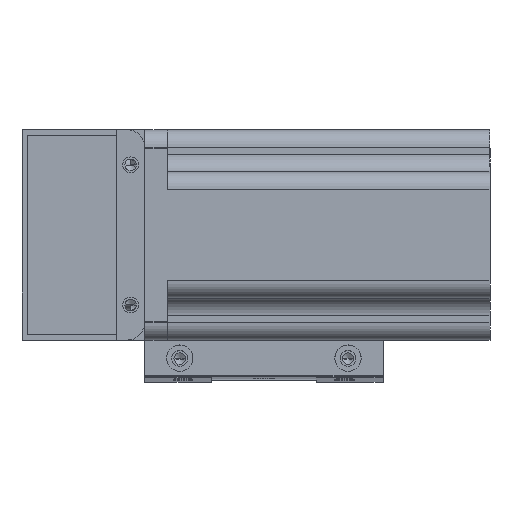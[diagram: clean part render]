
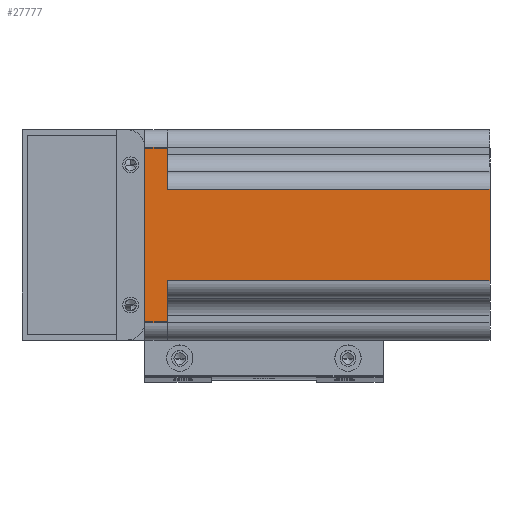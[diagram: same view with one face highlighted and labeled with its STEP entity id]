
A CAD part, top view. The second image highlights one B-rep face of the part: STEP entity #27777.
In plain terms, the highlighted planar face has unit normal (0, 0, 1) as drawn and (-1, 0, 0) by its records, which use the part's own axes.
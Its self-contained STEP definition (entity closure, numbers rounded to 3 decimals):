
#153 = DIRECTION ( 'NONE',  ( 0., -1., 0. ) ) ;
#791 = DIRECTION ( 'NONE',  ( 0., 1., 0. ) ) ;
#826 = CARTESIAN_POINT ( 'NONE',  ( -30., -25., 6.5 ) ) ;
#1353 = EDGE_LOOP ( 'NONE', ( #25726, #14454, #17214, #7334, #16757, #17132, #24239, #26567 ) ) ;
#1455 = CARTESIAN_POINT ( 'NONE',  ( -30., 13., -92. ) ) ;
#1907 = FACE_OUTER_BOUND ( 'NONE', #1353, .T. ) ;
#3016 = VERTEX_POINT ( 'NONE', #22235 ) ;
#3206 = VECTOR ( 'NONE', #791, 1000. ) ;
#3208 = EDGE_CURVE ( 'NONE', #23989, #17445, #11278, .T. ) ;
#3847 = CARTESIAN_POINT ( 'NONE',  ( -30., -25., 0. ) ) ;
#4029 = VECTOR ( 'NONE', #11522, 1000. ) ;
#4925 = PLANE ( 'NONE',  #6495 ) ;
#5169 = VERTEX_POINT ( 'NONE', #14510 ) ;
#5607 = LINE ( 'NONE', #22684, #3206 ) ;
#5768 = EDGE_CURVE ( 'NONE', #17445, #13157, #26271, .T. ) ;
#6495 = AXIS2_PLACEMENT_3D ( 'NONE', #13641, #19980, #22213 ) ;
#6500 = EDGE_CURVE ( 'NONE', #23989, #18814, #5607, .T. ) ;
#6698 = EDGE_CURVE ( 'NONE', #3016, #5169, #17689, .T. ) ;
#7268 = CARTESIAN_POINT ( 'NONE',  ( -30., -25., 6.5 ) ) ;
#7283 = VERTEX_POINT ( 'NONE', #12240 ) ;
#7332 = CARTESIAN_POINT ( 'NONE',  ( -30., -13., 0. ) ) ;
#7334 = ORIENTED_EDGE ( 'NONE', *, *, #7643, .F. ) ;
#7643 = EDGE_CURVE ( 'NONE', #25457, #13157, #12122, .T. ) ;
#8124 = CARTESIAN_POINT ( 'NONE',  ( -30., -25., 0. ) ) ;
#10000 = VECTOR ( 'NONE', #27383, 1000. ) ;
#11278 = LINE ( 'NONE', #11819, #4029 ) ;
#11522 = DIRECTION ( 'NONE',  ( 0., 0., 1. ) ) ;
#11819 = CARTESIAN_POINT ( 'NONE',  ( -30., -13., 6.5 ) ) ;
#12122 = LINE ( 'NONE', #25594, #18337 ) ;
#12240 = CARTESIAN_POINT ( 'NONE',  ( -30., 13., 0. ) ) ;
#12718 = DIRECTION ( 'NONE',  ( 0., -1., 0. ) ) ;
#13157 = VERTEX_POINT ( 'NONE', #8124 ) ;
#13641 = CARTESIAN_POINT ( 'NONE',  ( -30., -25., 6.5 ) ) ;
#13683 = EDGE_CURVE ( 'NONE', #7283, #18814, #27315, .T. ) ;
#14454 = ORIENTED_EDGE ( 'NONE', *, *, #3208, .T. ) ;
#14510 = CARTESIAN_POINT ( 'NONE',  ( -30., 25., 0. ) ) ;
#15119 = DIRECTION ( 'NONE',  ( 0., 0., -1. ) ) ;
#15138 = VECTOR ( 'NONE', #153, 1000. ) ;
#15325 = EDGE_CURVE ( 'NONE', #3016, #25457, #24843, .T. ) ;
#15326 = CARTESIAN_POINT ( 'NONE',  ( -30., -13., -92. ) ) ;
#16322 = EDGE_CURVE ( 'NONE', #5169, #7283, #26539, .T. ) ;
#16757 = ORIENTED_EDGE ( 'NONE', *, *, #15325, .F. ) ;
#16991 = DIRECTION ( 'NONE',  ( 0., 0., -1. ) ) ;
#17132 = ORIENTED_EDGE ( 'NONE', *, *, #6698, .T. ) ;
#17214 = ORIENTED_EDGE ( 'NONE', *, *, #5768, .T. ) ;
#17445 = VERTEX_POINT ( 'NONE', #7332 ) ;
#17689 = LINE ( 'NONE', #19289, #18726 ) ;
#18309 = VECTOR ( 'NONE', #15119, 1000. ) ;
#18337 = VECTOR ( 'NONE', #20844, 1000. ) ;
#18726 = VECTOR ( 'NONE', #16991, 1000. ) ;
#18814 = VERTEX_POINT ( 'NONE', #1455 ) ;
#19289 = CARTESIAN_POINT ( 'NONE',  ( -30., 25., 6.5 ) ) ;
#19980 = DIRECTION ( 'NONE',  ( 1., 0., 0. ) ) ;
#20844 = DIRECTION ( 'NONE',  ( 0., 0., -1. ) ) ;
#22213 = DIRECTION ( 'NONE',  ( 0., 0., -1. ) ) ;
#22235 = CARTESIAN_POINT ( 'NONE',  ( -30., 25., 6.5 ) ) ;
#22684 = CARTESIAN_POINT ( 'NONE',  ( -30., -18., -92. ) ) ;
#23590 = CARTESIAN_POINT ( 'NONE',  ( -30., 13., 6.5 ) ) ;
#23824 = VECTOR ( 'NONE', #12718, 1000. ) ;
#23989 = VERTEX_POINT ( 'NONE', #15326 ) ;
#24239 = ORIENTED_EDGE ( 'NONE', *, *, #16322, .T. ) ;
#24286 = CARTESIAN_POINT ( 'NONE',  ( -30., -25., 0. ) ) ;
#24843 = LINE ( 'NONE', #826, #10000 ) ;
#25457 = VERTEX_POINT ( 'NONE', #7268 ) ;
#25594 = CARTESIAN_POINT ( 'NONE',  ( -30., -25., 6.5 ) ) ;
#25726 = ORIENTED_EDGE ( 'NONE', *, *, #6500, .F. ) ;
#26271 = LINE ( 'NONE', #3847, #23824 ) ;
#26539 = LINE ( 'NONE', #24286, #15138 ) ;
#26567 = ORIENTED_EDGE ( 'NONE', *, *, #13683, .T. ) ;
#27315 = LINE ( 'NONE', #23590, #18309 ) ;
#27383 = DIRECTION ( 'NONE',  ( 0., -1., 0. ) ) ;
#27777 = ADVANCED_FACE ( 'NONE', ( #1907 ), #4925, .F. ) ;
